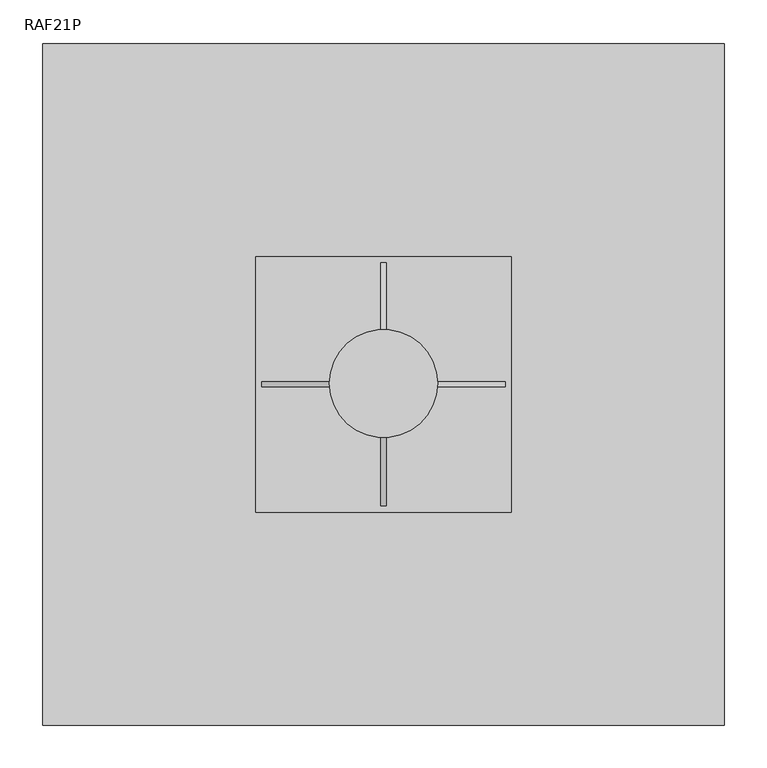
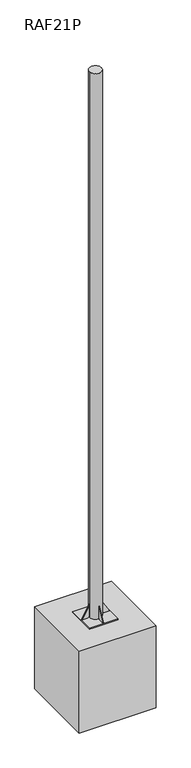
"""IFC4 building model written with IfcOpenShell, lengths in millimetres: light fixture geometry, CANDELA_CNF_RAF : RAF21P."""

from ifc_helpers import new_model, si_unit, point, frame, origin, origin_2d, place, context, project, spatial, polyline, circle_curve, trimmed, segment, composite_curve, outline, extrude, source, transform, mapped, element, save


def raf21p_b6533331(model_context):
    return source(origin(), model_context, "Body", "SweptSolid", [
        extrude(outline(polyline([(400.0, 400.0), (400.0, -400.0), (-400.0, -400.0), (-400.0, 400.0), (400.0, 400.0)])), frame((0.0, 0.0, -1100.0), z_axis=(0.0, 0.0, 1.0), x_axis=(1.0, 0.0, 0.0)), (0.0, 0.0, 1.0), 900.0),
        extrude(outline(polyline([(57.15, -40.0), (142.65, -190.0), (79.9181562, -190.0), (57.15, -150.0558663), (57.15, -40.0)])), frame((-3.0, 0.0, 0.0), z_axis=(1.0, 0.0, 0.0), x_axis=(0.0, 1.0, 0.0)), (0.0, 0.0, 1.0), 6.0),
        extrude(outline(polyline([(-57.15, -40.0), (-57.15, -150.0558663), (-79.9181562, -190.0), (-142.65, -190.0), (-57.15, -40.0)])), frame((-3.0, 0.0, 0.0), z_axis=(1.0, 0.0, 0.0), x_axis=(0.0, 1.0, 0.0)), (0.0, 0.0, 1.0), 6.0),
        extrude(outline(polyline([(-40.0, -57.15), (-190.0, -142.65), (-190.0, -79.9181562), (-150.0558663, -57.15), (-40.0, -57.15)])), frame((0.0, -3.0, 0.0), z_axis=(0.0, 1.0, 0.0), x_axis=(0.0, 0.0, 1.0)), (0.0, 0.0, 1.0), 6.0),
        extrude(outline(polyline([(-40.0, 57.15), (-150.0558663, 57.15), (-190.0, 79.9181562), (-190.0, 142.65), (-40.0, 57.15)])), frame((0.0, -3.0, 0.0), z_axis=(0.0, 1.0, 0.0), x_axis=(0.0, 0.0, 1.0)), (0.0, 0.0, 1.0), 6.0),
        extrude(outline(composite_curve([segment(trimmed(circle_curve(origin_2d(), 63.5), [point((-63.5, 0.0))], [point((63.5, 0.0))], False, "CARTESIAN"), True, "CONTINUOUS"), segment(trimmed(circle_curve(origin_2d(), 63.5), [point((63.5, 0.0))], [point((-63.5, 0.0))], False, "CARTESIAN"), True, "CONTINUOUS")], self_intersect=False)), frame((0.0, 0.0, -190.0), z_axis=(0.0, 0.0, 1.0), x_axis=(1.0, 0.0, 0.0)), (0.0, 0.0, 1.0), 5990.0),
        extrude(outline(polyline([(150.0, 150.0), (150.0, -150.0), (-150.0, -150.0), (-150.0, 150.0), (150.0, 150.0)])), frame((0.0, 0.0, -200.0), z_axis=(0.0, 0.0, 1.0), x_axis=(1.0, 0.0, 0.0)), (0.0, 0.0, 1.0), 10.0),
    ])


if __name__ == "__main__":
    model = new_model("IFC4")
    model_context = context("Model", 3, world=origin())
    ifc_project = project(units=[si_unit("LENGTHUNIT", "METRE", prefix="MILLI")], contexts=[model_context])
    site = spatial("IfcSite", under=ifc_project)
    building = spatial("IfcBuilding", under=site)
    placement = place(None, origin())
    raf21p_shape = raf21p_b6533331(model_context)
    element("IfcLightFixture", 1, ObjectType="CANDELA_CNF_RAF : RAF21P", at=placement, inside=building, context=model_context, shape_type="MappedRepresentation", body=[
        mapped(raf21p_shape, transform((0.0, 0.0, 0.0), x_axis=(1.0, 0.0, 0.0), y_axis=(0.0, 1.0, 0.0), z_axis=(0.0, 0.0, 1.0))),
    ])
    save(model, "model.ifc")
